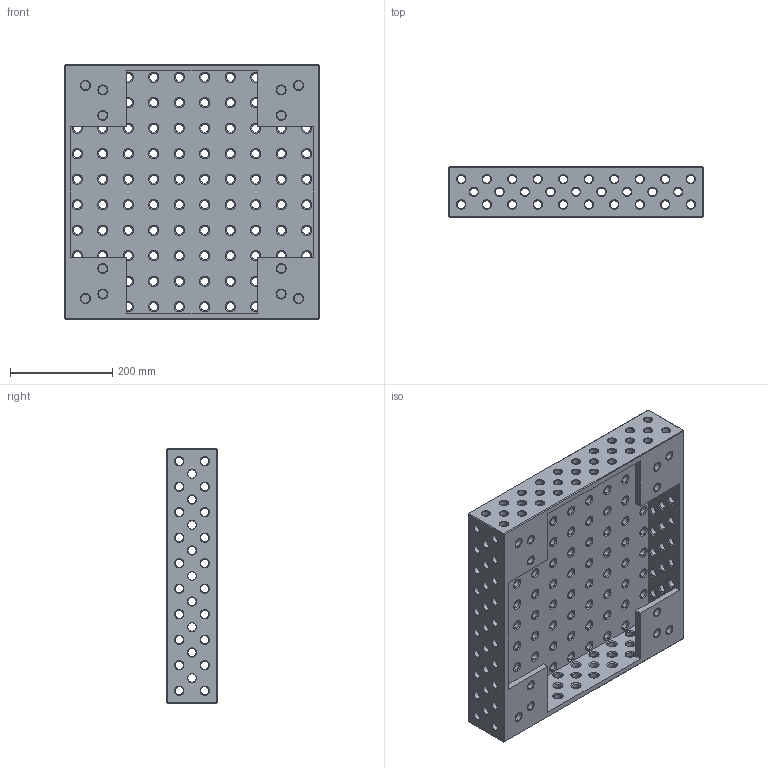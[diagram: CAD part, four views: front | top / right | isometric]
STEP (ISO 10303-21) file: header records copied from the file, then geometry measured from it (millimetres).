
FILE_DESCRIPTION (( 'STEP AP203' ), '1' );
FILE_NAME ('160290_500x500x100.step', '2014-08-11T15:30:15', ( 'User' ), ( '' ), 'SwSTEP 2.0', 'SolidWorks 2014', '' );
FILE_SCHEMA (( 'CONFIG_CONTROL_DESIGN' ));
Products named in the file (1): 160290_500x500x100
Bounding box: 500 x 100 x 500 mm (x, y, z)
Volume: 5046167.2 mm3; surface area: 987321.3 mm2
Topology: 1 solids, 1 shells, 1411 faces, 3288 edges, 1880 vertices
Faces by surface type: cone 912, cylinder 456, plane 43
Entity records: 40887 total; most frequent: DIRECTION 7936, CARTESIAN_POINT 6580, ORIENTED_EDGE 6576, EDGE_CURVE 3288, AXIS2_PLACEMENT_3D 3236, VERTEX_POINT 1880, EDGE_LOOP 1868, CIRCLE 1824
